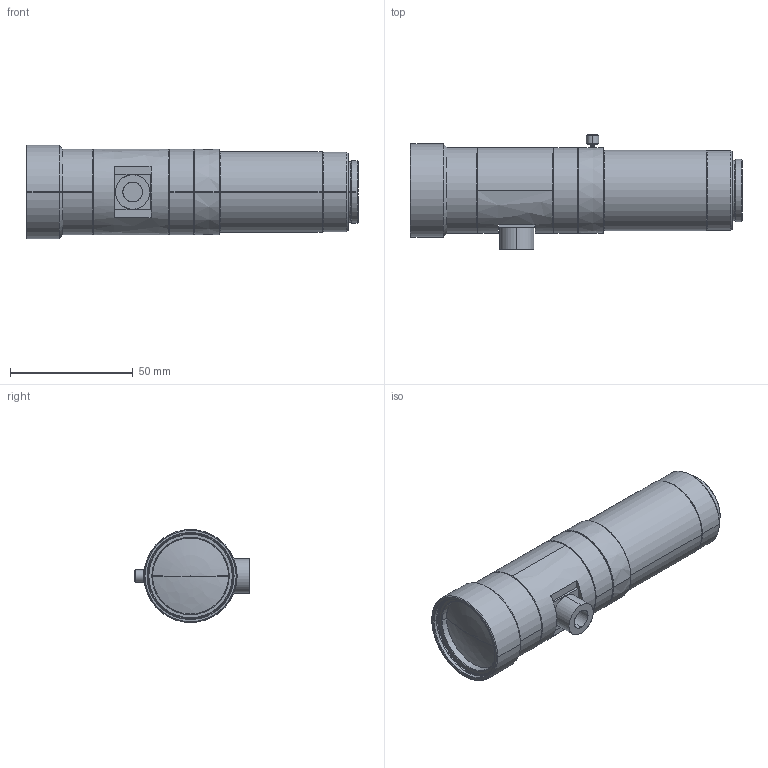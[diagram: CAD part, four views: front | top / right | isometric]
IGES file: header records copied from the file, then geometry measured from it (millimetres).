
Start section: SolidWorks IGES file using analytic representation for surfaces
Global section: file name: C:\Users\matsui_VST\Desktop\AutoCAD図面DATA\●・THV10,15,20,30,40-110CO   (3Dモデル) ▲\VS-THV1.5-110CO_S-SWIR.IGS; native system: SolidWorks 2018; preprocessor: SolidWorks 2018; author: matsui_VST; date: 200909.175743; units: millimetre
Bounding box: 135.42 x 46.8 x 38 mm (x, y, z)
Surface area: 27932.2 mm2 (no closed solid volume)
Topology: 0 solids, 0 shells, 157 faces, 2754 edges, 2752 vertices
Faces by surface type: revolution 124, bspline 33
